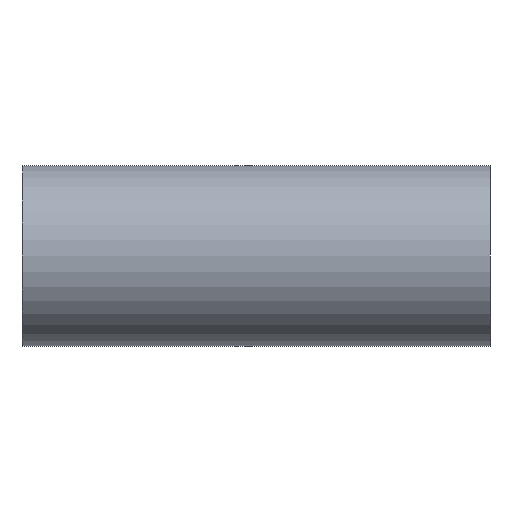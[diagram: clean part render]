
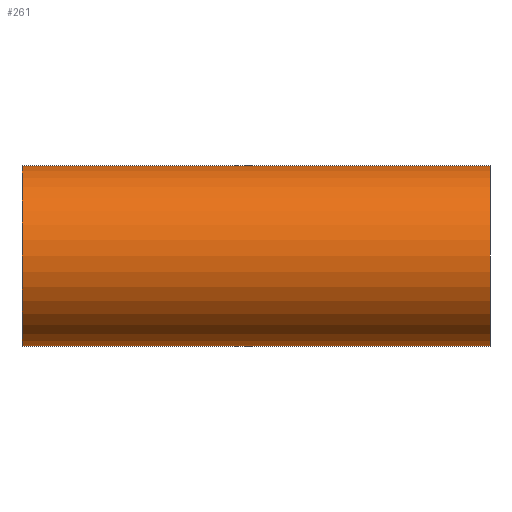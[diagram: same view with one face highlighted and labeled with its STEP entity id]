
A CAD part, front view. The second image highlights one B-rep face of the part: STEP entity #261.
In plain terms, the highlighted cylindrical face has radius 31.75 mm (diameter 63.5 mm), a partial arc.
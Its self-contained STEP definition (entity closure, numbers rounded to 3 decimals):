
#13 = CIRCLE ( 'NONE', #567, 31.75 ) ;
#25 = DIRECTION ( 'NONE',  ( 0., 0., 1. ) ) ;
#29 = DIRECTION ( 'NONE',  ( 1., 0., 0. ) ) ;
#34 = CARTESIAN_POINT ( 'NONE',  ( -82.1, 0., 0. ) ) ;
#75 = LINE ( 'NONE', #272, #564 ) ;
#101 = CARTESIAN_POINT ( 'NONE',  ( 171.903, 0., 31.75 ) ) ;
#132 = FACE_OUTER_BOUND ( 'NONE', #419, .T. ) ;
#157 = CYLINDRICAL_SURFACE ( 'NONE', #414, 31.75 ) ;
#178 = DIRECTION ( 'NONE',  ( -1., 0., 0. ) ) ;
#192 = CARTESIAN_POINT ( 'NONE',  ( 82.1, 0., -31.75 ) ) ;
#195 = EDGE_CURVE ( 'NONE', #402, #215, #13, .T. ) ;
#215 = VERTEX_POINT ( 'NONE', #458 ) ;
#219 = DIRECTION ( 'NONE',  ( 0., 0., 1. ) ) ;
#223 = CIRCLE ( 'NONE', #522, 31.75 ) ;
#225 = DIRECTION ( 'NONE',  ( 0., 0., 1. ) ) ;
#227 = ORIENTED_EDGE ( 'NONE', *, *, #512, .T. ) ;
#230 = DIRECTION ( 'NONE',  ( -1., 0., 0. ) ) ;
#246 = ORIENTED_EDGE ( 'NONE', *, *, #195, .T. ) ;
#251 = CARTESIAN_POINT ( 'NONE',  ( 82.1, 0., 0. ) ) ;
#257 = CARTESIAN_POINT ( 'NONE',  ( 171.903, 0., 0. ) ) ;
#261 = ADVANCED_FACE ( 'NONE', ( #132 ), #157, .T. ) ;
#272 = CARTESIAN_POINT ( 'NONE',  ( 171.903, 0., -31.75 ) ) ;
#289 = ORIENTED_EDGE ( 'NONE', *, *, #375, .T. ) ;
#300 = CARTESIAN_POINT ( 'NONE',  ( -82.1, 0., -31.75 ) ) ;
#317 = LINE ( 'NONE', #101, #552 ) ;
#369 = VERTEX_POINT ( 'NONE', #300 ) ;
#375 = EDGE_CURVE ( 'NONE', #215, #539, #317, .T. ) ;
#391 = CARTESIAN_POINT ( 'NONE',  ( -82.1, 0., 31.75 ) ) ;
#402 = VERTEX_POINT ( 'NONE', #192 ) ;
#414 = AXIS2_PLACEMENT_3D ( 'NONE', #257, #178, #219 ) ;
#419 = EDGE_LOOP ( 'NONE', ( #562, #246, #289, #227 ) ) ;
#453 = EDGE_CURVE ( 'NONE', #402, #369, #75, .T. ) ;
#458 = CARTESIAN_POINT ( 'NONE',  ( 82.1, 0., 31.75 ) ) ;
#476 = DIRECTION ( 'NONE',  ( -1., 0., 0. ) ) ;
#500 = DIRECTION ( 'NONE',  ( -1., 0., 0. ) ) ;
#512 = EDGE_CURVE ( 'NONE', #539, #369, #223, .T. ) ;
#522 = AXIS2_PLACEMENT_3D ( 'NONE', #34, #29, #25 ) ;
#539 = VERTEX_POINT ( 'NONE', #391 ) ;
#552 = VECTOR ( 'NONE', #500, 1000. ) ;
#562 = ORIENTED_EDGE ( 'NONE', *, *, #453, .F. ) ;
#564 = VECTOR ( 'NONE', #476, 1000. ) ;
#567 = AXIS2_PLACEMENT_3D ( 'NONE', #251, #230, #225 ) ;
